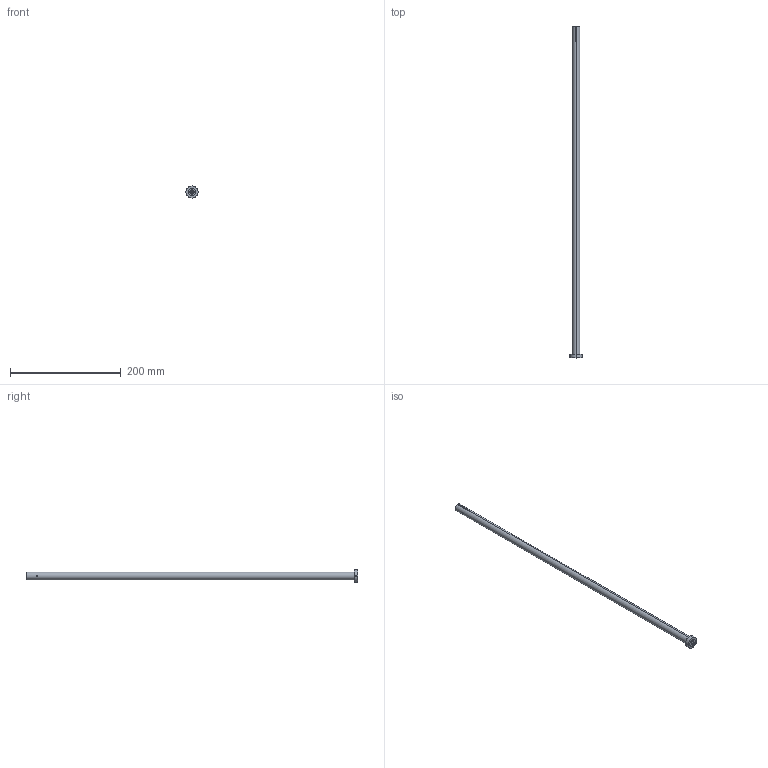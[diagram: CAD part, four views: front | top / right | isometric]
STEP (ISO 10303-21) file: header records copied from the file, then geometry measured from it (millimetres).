
FILE_DESCRIPTION (( 'STEP AP203' ), '1' );
FILE_NAME ('SGDE-1405x600.STEP', '2019-09-30T12:38:53', ( '' ), ( '' ), 'SwSTEP 2.0', 'SolidWorks 2019', '' );
FILE_SCHEMA (( 'CONFIG_CONTROL_DESIGN' ));
Length unit declared in the file: millimetre
Products named in the file (1): SGDE-1405x600
Bounding box: 22 x 600.5 x 22 mm (x, y, z)
Volume: 72189.1 mm3; surface area: 41284.1 mm2
Topology: 1 solids, 1 shells, 84 faces, 234 edges, 154 vertices
Faces by surface type: cylinder 48, plane 32, cone 4
Entity records: 3433 total; most frequent: CARTESIAN_POINT 1197, ORIENTED_EDGE 468, DIRECTION 422, EDGE_CURVE 234, AXIS2_PLACEMENT_3D 155, VERTEX_POINT 154, VECTOR 112, LINE 112
